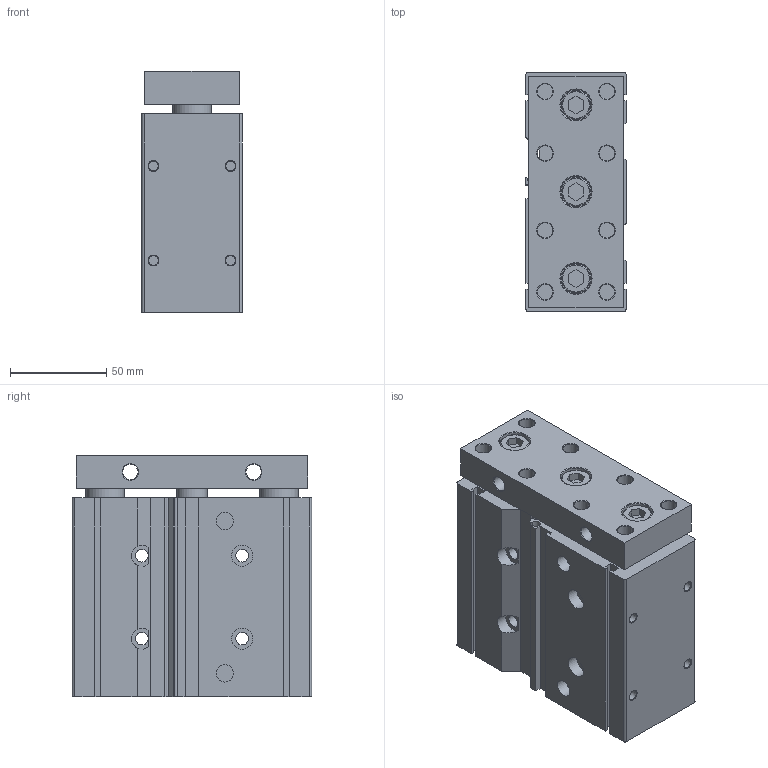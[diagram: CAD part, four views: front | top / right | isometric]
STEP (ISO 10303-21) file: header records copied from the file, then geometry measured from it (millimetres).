
FILE_DESCRIPTION((''),'2;1');
FILE_NAME('I:\3D電子目錄\氣缸\TB(U)\TB(U)40\TB(U)40\TB(U)40x50.stp','2007-08-06T08:29:49',('Administrator'),(''),'Autodesk Inventor 2008','Autodesk Inventor 2008','');
FILE_SCHEMA(('AUTOMOTIVE_DESIGN { 1 0 10303 214 1 1 1 1 }'));
Length unit declared in the file: millimetre
Products named in the file (1): TB(U)40X50
Bounding box: 52 x 124 x 125 mm (x, y, z)
Volume: 699611.8 mm3; surface area: 89161.4 mm2
Topology: 1 solids, 1 shells, 218 faces, 500 edges, 320 vertices
Faces by surface type: plane 104, cylinder 52, cone 37, bspline 22, torus 3
Full cylindrical faces by diameter (mm): 5 x4, 6 x4, 6.5 x4, 8 x10, 9 x2, 11 x6, 15 x3, 16 x4, 20 x4, 28 x2, 35 x1
Entity records: 5822 total; most frequent: CARTESIAN_POINT 1073, DIRECTION 962, ORIENTED_EDGE 824, EDGE_CURVE 412, EDGE_LOOP 374, AXIS2_PLACEMENT_3D 353, VERTEX_POINT 320, VECTOR 256
